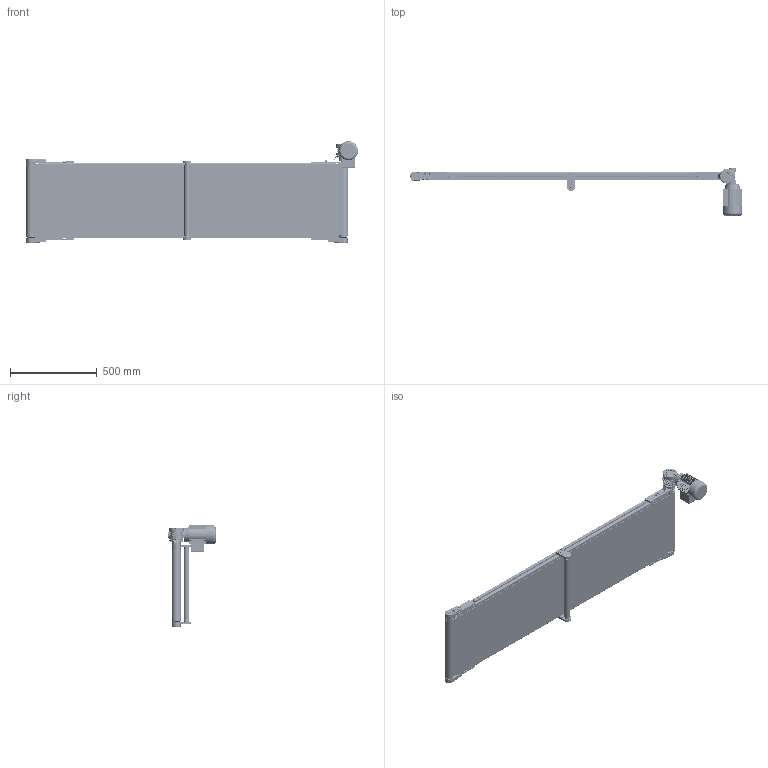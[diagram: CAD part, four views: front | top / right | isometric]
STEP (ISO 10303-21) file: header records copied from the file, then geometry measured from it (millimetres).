
FILE_DESCRIPTION (( 'STEP AP203' ), '1' );
FILE_NAME ('NASTRO_RETTILINEO_TAPPETO.step', '2026-06-04T07:15:31', ( 'Utente Windows' ), ( '' ), 'SwSTEP 2.0', 'SolidWorks 2024', '' );
FILE_SCHEMA (( 'CONFIG_CONTROL_DESIGN' ));
Length unit declared in the file: millimetre
Products named in the file (49): VITI TCEI UNI 5931_M6x12 UNI 5931; CHIAVETTE_A 5x5x20 UNI 6604-69; 084.802.061; 084.302.000 DADI ALUSIC 13x13-1_084.302.004; 084.808.012; 084.807.003_084.807.003<A macchina>; 084.802.008; 084.811.001; 084.301.000 VITI ALUSIC_084.301.009; 084.802.062; VITI TSEI UNI 5933_M5x12 UNI 5933; 084.807.002_084.807.002; 084.811.004; LAMIERA_STANDARD; 084.802.065_Default<A macchina>; BLOCCO_PERNO_50_30; NASTRO_RETTILINEO_TAPPETO; RONDELLE FASCIA LARGA UNI 6593_5.4x20 UNI 6593; TELAIO_50_STANDARD_Default<A macchina>; BLOCCO_BRACCIO_CH03P_VF30P; TAPPETO_STANDARD; BLOCCO_TRAINO_50_STANDARD; BLOCCO_RINVIO_50_STANDARD; 084.301.000 VITI ALUSIC_084.301.003; BLOCCO_TRAINO_50_STANDARD_30_DX; RULLO_50_Default<A macchina>; VITI TE UNI 5739_M6x16 UNI 5739; 084.810.001; 084.302.000 DADI ALUSIC 13x13_084.302.004; CH03P_DX; VITE_DADO_M5X12; 084.802.017_084.802.017; 084.303.001; 084.802.028; VITI TSEI UNI 5933_M4x10 UNI 5933; VITI TSEI UNI 5933 INOX_0412UNI5933A2; BLOCCO_PERNO_50_RINVIO; 084.802.071; BLOCCO_REGGITAPPETO; 14UNI7435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
Assembly tree (99 placements, depth 4):
  NASTRO_RETTILINEO_TAPPETO
    TAPPETO_STANDARD
    TELAIO_50_STANDARD_Default<A macchina>
    LAMIERA_STANDARD
    RULLO_50_Default<A macchina>  x2
    BLOCCO_PERNO_50_30
      084.810.001
      084.811.001
      RONDELLE FASCIA LARGA UNI 6593_5.4x20 UNI 6593
      084.301.000 VITI ALUSIC_084.301.009
      CHIAVETTE_A 5x5x40 UNI 6604-69
      CHIAVETTE_A 5x5x20 UNI 6604-69
      14UNI7435
    BLOCCO_TRAINO_50_STANDARD_30_DX
      084.807.003_084.807.003<A macchina>
      084.802.017_084.802.017
      084.301.000 VITI ALUSIC_084.301.003  x2
      084.302.000 DADI ALUSIC 13x13-1_084.302.004  x2
      BLOCCO_BRACCIO_CH03P_VF30P
        084.808.012
        084.802.062
        0820ISO2342
        084.802.061
        VITI TE UNI 5739_M6x16 UNI 5739  x4
        084.803.018
        VITI TCEI UNI 5931_M6x12 UNI 5931  x4
      084.802.065_Default<A macchina>
      VITI TCEI UNI 5931_M4x25 UNI 5931  x2
    BLOCCO_PERNO_50_RINVIO  x3
      084.811.004
      084.810.001
    BLOCCO_TRAINO_50_STANDARD
      084.807.002_084.807.002
      084.802.017_084.802.017
      084.301.000 VITI ALUSIC_084.301.003  x2
      084.302.000 DADI ALUSIC 13x13-1_084.302.004  x2
      084.802.071
      VITI TSEI UNI 5933 INOX_0412UNI5933A2  x2
    BLOCCO_RINVIO_50_STANDARD  x2
      084.807.002_084.807.002
      084.802.017_084.802.017
      084.802.008
      084.301.000 VITI ALUSIC_084.301.003
      084.302.000 DADI ALUSIC 13x13_084.302.004
      VITI TSEI UNI 5933_M4x10 UNI 5933
      084.802.071
    VITE_RONDELLA_M8X20  x7
      084.303.001
      084.301.000 VITI ALUSIC_084.301.003
    VITE_DADO_M5X12  x10
      084.302.000 DADI ALUSIC 13x13-1_084.302.007
      VITI TSEI UNI 5933_M5x12 UNI 5933
    BLOCCO_REGGITAPPETO  x2
      084.301.000 VITI ALUSIC_084.301.003
      084.302.000 DADI ALUSIC 13x13-1_084.302.004
      084.802.017_084.802.017
      084.802.028
      084.802.014
      084.802.013-2
    RULLO_REGGITAPPETO
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Bounding box: 1912 x 273 x 585 mm (x, y, z)
Volume: 10469748.2 mm3; surface area: 8576595.4 mm2
Topology: 151 solids, 159 shells, 7552 faces, 19673 edges, 12611 vertices
Faces by surface type: plane 3832, cylinder 2151, cone 605, bspline 525, torus 393, sphere 46
Entity records: 160728 total; most frequent: CARTESIAN_POINT 46039, ORIENTED_EDGE 23572, DIRECTION 21575, EDGE_CURVE 11786, VERTEX_POINT 7594, AXIS2_PLACEMENT_3D 7374, LINE 6827, VECTOR 6827
